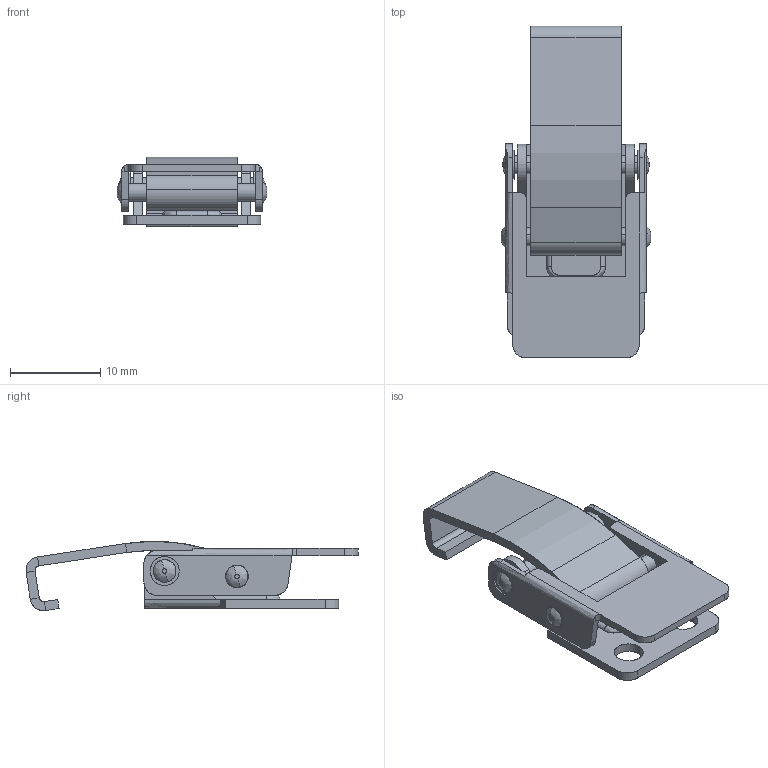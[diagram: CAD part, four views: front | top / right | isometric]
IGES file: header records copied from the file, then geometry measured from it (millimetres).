
Start section: SolidWorks IGES file using analytic representation for surfaces
Global section: file name: C:\Users\cbrechard\Desktop\GE 2018.IGS; native system: SolidWorks 2017; preprocessor: SolidWorks 2017; author: cbrechard; date: 180125.170626; units: millimetre
Bounding box: 16.6 x 36.75 x 7.68 mm (x, y, z)
Surface area: 2610.8 mm2 (no closed solid volume)
Topology: 0 solids, 0 shells, 192 faces, 2368 edges, 2338 vertices
Faces by surface type: revolution 98, bspline 94
